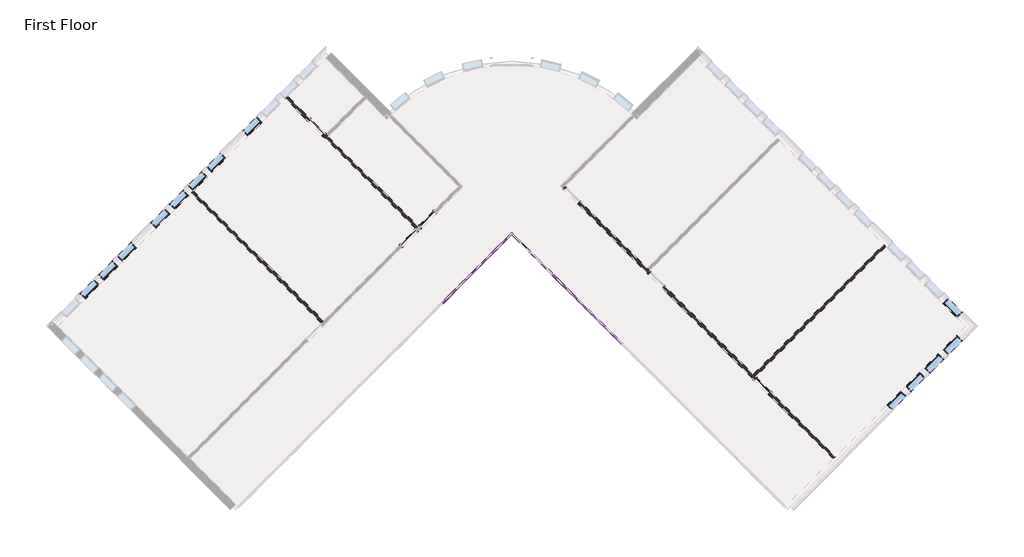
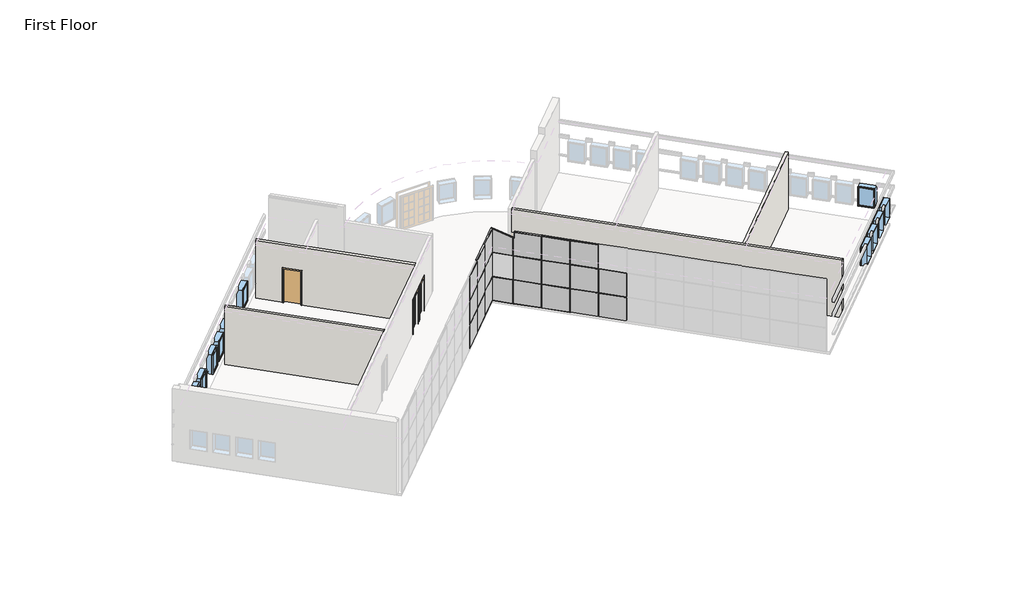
# One storey, part 3 of 5: 47 members, 22 plates, 13 windows, 4 doors, 4 walls.
"""IFC4 building model written with IfcOpenShell, lengths in millimetres."""

from ifc_helpers import new_model, si_unit, origin, origin_with_axes, place, context, project, spatial, polyline, outline, extrude, faceted_brep, transform, mapped, element, save
from components import door_f9494b7c, door_b81abb0e, door_5f5b55da, member_b8a5b5c0, member_155beb68, member_f5090587, member_42be4715, member_6121af53, member_bd80eb51, member_a3731390, member_b87a50da, member_beb33b19, member_b73a8a31, member_6675e4ca, member_76f0c52a, member_4ed907bf, system_panel_glazed_f8555db4, system_panel_glazed_da345f4e, system_panel_glazed_b4114ee2, system_panel_glazed_d4009c89, system_panel_glazed_f1e4c5b0, system_panel_solid_99f695d0, system_panel_solid_2f1037e2, system_panel_solid_f673cd79, system_panel_solid_3576f13f, window_15c49d37, window_0e2fc6ce

model = new_model("IFC4")

# Units and contexts
model_context = context("Model", 3, world=origin())
ifc_project = project(units=[si_unit("LENGTHUNIT", "METRE", prefix="MILLI")], contexts=[model_context])

# Site, building, storey
site = spatial("IfcSite", under=ifc_project)
building = spatial("IfcBuilding", under=site)
storey = spatial("IfcBuildingStorey", under=building, Name="First Floor", Elevation=0.0)

# Doors
placement = place(None, origin())
door_shape = door_f9494b7c(model_context)
element("IfcDoor", 1, ObjectType="Single-Flush : 36\" x 84\"", at=placement, inside=storey, context=model_context, shape_type="MappedRepresentation", body=[
    mapped(door_shape, transform((-11920.1265343, 7875.9588464, 0.0), x_axis=(0.7071067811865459, -0.7071067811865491, 0.0), y_axis=(0.7071067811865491, 0.7071067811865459, 0.0), z_axis=(0.0, 0.0, 1.0))),
])
door_2_shape = door_b81abb0e(model_context)
element("IfcDoor", 2, ObjectType="Single-Glass 1 : 36\" x 84\"", at=placement, inside=storey, context=model_context, shape_type="MappedRepresentation", body=[
    mapped(door_2_shape, transform((-7643.2795567, 2737.0072811, 0.0), x_axis=(0.7071067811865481, 0.7071067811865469, 0.0), y_axis=(-0.7071067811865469, 0.7071067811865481, 0.0), z_axis=(0.0, 0.0, 1.0))),
])
door_3_shape = door_5f5b55da(model_context)
element("IfcDoor", 3, ObjectType="Single-Glass 1 : 36\" x 84\"", at=placement, inside=storey, context=model_context, shape_type="MappedRepresentation", body=[
    mapped(door_3_shape, transform((-6781.1749691, 3599.1118687, 0.0), x_axis=(-0.7071067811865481, -0.7071067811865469, 0.0), y_axis=(0.7071067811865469, -0.7071067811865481, 0.0), z_axis=(0.0, 0.0, 1.0))),
])
element("IfcDoor", 4, ObjectType="Single-Glass 1 : 36\" x 84\"", at=placement, inside=storey, context=model_context, shape_type="MappedRepresentation", body=[
    mapped(door_3_shape, transform((8770.3835686, -4126.1534594, 0.0), x_axis=(-0.7071067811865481, 0.7071067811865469, 0.0), y_axis=(-0.7071067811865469, -0.7071067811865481, 0.0), z_axis=(0.0, 0.0, 1.0))),
])

# Members
member_shape = member_b8a5b5c0(model_context)
element("IfcMember", 5, ObjectType="Rectangular Mullion : 1.5\" x 2.5\" Rectangular", at=placement, inside=storey, context=model_context, shape_type="MappedRepresentation", body=[
    mapped(member_shape, transform((-2894.9691327, 2925.5926597, 0.0), x_axis=(0.0, 0.0, -1.0), y_axis=(-0.7071067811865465, 0.7071067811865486, 0.0), z_axis=(0.7071067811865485, 0.7071067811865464, 0.0))),
])
member_2_shape = member_155beb68(model_context)
element("IfcMember", 6, ObjectType="Rectangular Mullion : 1.5\" x 2.5\" Rectangular", at=placement, inside=storey, context=model_context, shape_type="MappedRepresentation", body=[
    mapped(member_2_shape, transform((-3945.6590988, 1874.9026935, 0.0), x_axis=(-0.7071067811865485, -0.7071067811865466, 0.0), y_axis=(-0.7071067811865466, 0.7071067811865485, 0.0), z_axis=(0.0, 0.0, -1.0))),
])
element("IfcMember", 7, ObjectType="Rectangular Mullion : 1.5\" x 2.5\" Rectangular", at=placement, inside=storey, context=model_context, shape_type="MappedRepresentation", body=[
    mapped(member_2_shape, transform((-5023.2898334, 797.271959, 0.0), x_axis=(-0.7071067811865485, -0.7071067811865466, 0.0), y_axis=(-0.7071067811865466, 0.7071067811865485, 0.0), z_axis=(0.0, 0.0, -1.0))),
])
element("IfcMember", 8, ObjectType="Rectangular Mullion : 1.5\" x 2.5\" Rectangular", at=placement, inside=storey, context=model_context, shape_type="MappedRepresentation", body=[
    mapped(member_2_shape, transform((115.6617319, -31.1566682, 0.0), x_axis=(-0.7071067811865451, 0.70710678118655, 0.0), y_axis=(0.70710678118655, 0.7071067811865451, 0.0), z_axis=(0.0, 0.0, -1.0))),
])
element("IfcMember", 9, ObjectType="Rectangular Mullion : 1.5\" x 2.5\" Rectangular", at=placement, inside=storey, context=model_context, shape_type="MappedRepresentation", body=[
    mapped(member_2_shape, transform((-961.9690026, 1046.4740663, 0.0), x_axis=(-0.7071067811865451, 0.70710678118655, 0.0), y_axis=(0.70710678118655, 0.7071067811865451, 0.0), z_axis=(0.0, 0.0, -1.0))),
])
element("IfcMember", 10, ObjectType="Rectangular Mullion : 1.5\" x 2.5\" Rectangular", at=placement, inside=storey, context=model_context, shape_type="MappedRepresentation", body=[
    mapped(member_2_shape, transform((-2039.5997371, 2124.1048009, 0.0), x_axis=(-0.7071067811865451, 0.70710678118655, 0.0), y_axis=(0.70710678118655, 0.7071067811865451, 0.0), z_axis=(0.0, 0.0, -1.0))),
])
element("IfcMember", 11, ObjectType="Rectangular Mullion : 1.5\" x 2.5\" Rectangular", at=placement, inside=storey, context=model_context, shape_type="MappedRepresentation", body=[
    mapped(member_2_shape, transform((-3945.6590988, 1874.9026935, 3048.0), x_axis=(-0.7071067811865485, -0.7071067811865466, 0.0), y_axis=(-0.7071067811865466, 0.7071067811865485, 0.0), z_axis=(0.0, 0.0, -1.0))),
])
element("IfcMember", 12, ObjectType="Rectangular Mullion : 1.5\" x 2.5\" Rectangular", at=placement, inside=storey, context=model_context, shape_type="MappedRepresentation", body=[
    mapped(member_2_shape, transform((-5023.2898334, 797.271959, 3048.0), x_axis=(-0.7071067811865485, -0.7071067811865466, 0.0), y_axis=(-0.7071067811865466, 0.7071067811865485, 0.0), z_axis=(0.0, 0.0, -1.0))),
])
element("IfcMember", 13, ObjectType="Rectangular Mullion : 1.5\" x 2.5\" Rectangular", at=placement, inside=storey, context=model_context, shape_type="MappedRepresentation", body=[
    mapped(member_2_shape, transform((115.6617319, -31.1566682, 3048.0), x_axis=(-0.7071067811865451, 0.70710678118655, 0.0), y_axis=(0.70710678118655, 0.7071067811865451, 0.0), z_axis=(0.0, 0.0, -1.0))),
])
element("IfcMember", 14, ObjectType="Rectangular Mullion : 1.5\" x 2.5\" Rectangular", at=placement, inside=storey, context=model_context, shape_type="MappedRepresentation", body=[
    mapped(member_2_shape, transform((-961.9690026, 1046.4740663, 3048.0), x_axis=(-0.7071067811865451, 0.70710678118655, 0.0), y_axis=(0.70710678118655, 0.7071067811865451, 0.0), z_axis=(0.0, 0.0, -1.0))),
])
element("IfcMember", 15, ObjectType="Rectangular Mullion : 1.5\" x 2.5\" Rectangular", at=placement, inside=storey, context=model_context, shape_type="MappedRepresentation", body=[
    mapped(member_2_shape, transform((-3945.6590988, 1874.9026935, 1524.0), x_axis=(-0.7071067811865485, -0.7071067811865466, 0.0), y_axis=(-0.7071067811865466, 0.7071067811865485, 0.0), z_axis=(0.0, 0.0, -1.0))),
])
element("IfcMember", 16, ObjectType="Rectangular Mullion : 1.5\" x 2.5\" Rectangular", at=placement, inside=storey, context=model_context, shape_type="MappedRepresentation", body=[
    mapped(member_2_shape, transform((-5023.2898334, 797.271959, 1524.0), x_axis=(-0.7071067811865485, -0.7071067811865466, 0.0), y_axis=(-0.7071067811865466, 0.7071067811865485, 0.0), z_axis=(0.0, 0.0, -1.0))),
])
element("IfcMember", 17, ObjectType="Rectangular Mullion : 1.5\" x 2.5\" Rectangular", at=placement, inside=storey, context=model_context, shape_type="MappedRepresentation", body=[
    mapped(member_2_shape, transform((115.6617319, -31.1566682, 1524.0), x_axis=(-0.7071067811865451, 0.70710678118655, 0.0), y_axis=(0.70710678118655, 0.7071067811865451, 0.0), z_axis=(0.0, 0.0, -1.0))),
])
element("IfcMember", 18, ObjectType="Rectangular Mullion : 1.5\" x 2.5\" Rectangular", at=placement, inside=storey, context=model_context, shape_type="MappedRepresentation", body=[
    mapped(member_2_shape, transform((-961.9690026, 1046.4740663, 1524.0), x_axis=(-0.7071067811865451, 0.70710678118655, 0.0), y_axis=(0.70710678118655, 0.7071067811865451, 0.0), z_axis=(0.0, 0.0, -1.0))),
])
element("IfcMember", 19, ObjectType="Rectangular Mullion : 1.5\" x 2.5\" Rectangular", at=placement, inside=storey, context=model_context, shape_type="MappedRepresentation", body=[
    mapped(member_2_shape, transform((-2039.5997371, 2124.1048009, 1524.0), x_axis=(-0.7071067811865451, 0.70710678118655, 0.0), y_axis=(0.70710678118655, 0.7071067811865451, 0.0), z_axis=(0.0, 0.0, -1.0))),
])
member_3_shape = member_f5090587(model_context)
element("IfcMember", 20, ObjectType="Rectangular Mullion : 1.5\" x 2.5\" Rectangular", at=placement, inside=storey, context=model_context, shape_type="MappedRepresentation", body=[
    mapped(member_3_shape, transform((-3932.1887147, 1888.3730777, 1524.0), x_axis=(0.0, 0.0, 1.0), y_axis=(-0.7071067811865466, 0.7071067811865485, 0.0), z_axis=(-0.7071067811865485, -0.7071067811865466, 0.0))),
])
element("IfcMember", 21, ObjectType="Rectangular Mullion : 1.5\" x 2.5\" Rectangular", at=placement, inside=storey, context=model_context, shape_type="MappedRepresentation", body=[
    mapped(member_3_shape, transform((-3932.1887147, 1888.3730777, 3048.0), x_axis=(0.0, 0.0, 1.0), y_axis=(-0.7071067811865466, 0.7071067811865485, 0.0), z_axis=(-0.7071067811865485, -0.7071067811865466, 0.0))),
])
member_4_shape = member_42be4715(model_context)
element("IfcMember", 22, ObjectType="Rectangular Mullion : 1.5\" x 2.5\" Rectangular", at=placement, inside=storey, context=model_context, shape_type="MappedRepresentation", body=[
    mapped(member_4_shape, transform((-5009.8194492, 810.7423431, 1524.0), x_axis=(0.0, 0.0, 1.0), y_axis=(-0.7071067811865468, 0.7071067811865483, 0.0), z_axis=(-0.7071067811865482, -0.7071067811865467, 0.0))),
])
element("IfcMember", 23, ObjectType="Rectangular Mullion : 1.5\" x 2.5\" Rectangular", at=placement, inside=storey, context=model_context, shape_type="MappedRepresentation", body=[
    mapped(member_4_shape, transform((-5009.8194492, 810.7423431, 3048.0), x_axis=(0.0, 0.0, 1.0), y_axis=(-0.7071067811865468, 0.7071067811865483, 0.0), z_axis=(-0.7071067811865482, -0.7071067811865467, 0.0))),
])
element("IfcMember", 24, ObjectType="Rectangular Mullion : 1.5\" x 2.5\" Rectangular", at=placement, inside=storey, context=model_context, shape_type="MappedRepresentation", body=[
    mapped(member_4_shape, transform((-2026.129353, 2110.6344167, 3048.0), x_axis=(0.0, 0.0, 1.0), y_axis=(0.7071067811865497, 0.7071067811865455, 0.0), z_axis=(-0.7071067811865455, 0.7071067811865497, 0.0))),
])
element("IfcMember", 25, ObjectType="Rectangular Mullion : 1.5\" x 2.5\" Rectangular", at=placement, inside=storey, context=model_context, shape_type="MappedRepresentation", body=[
    mapped(member_4_shape, transform((129.1321161, -44.6270524, 1524.0), x_axis=(0.0, 0.0, 1.0), y_axis=(0.70710678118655, 0.707106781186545, 0.0), z_axis=(-0.707106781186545, 0.70710678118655, 0.0))),
])
element("IfcMember", 26, ObjectType="Rectangular Mullion : 1.5\" x 2.5\" Rectangular", at=placement, inside=storey, context=model_context, shape_type="MappedRepresentation", body=[
    mapped(member_4_shape, transform((-948.4986184, 1033.0036821, 1524.0), x_axis=(0.0, 0.0, 1.0), y_axis=(0.7071067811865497, 0.7071067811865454, 0.0), z_axis=(-0.7071067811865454, 0.7071067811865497, 0.0))),
])
element("IfcMember", 27, ObjectType="Rectangular Mullion : 1.5\" x 2.5\" Rectangular", at=placement, inside=storey, context=model_context, shape_type="MappedRepresentation", body=[
    mapped(member_4_shape, transform((-2026.129353, 2110.6344167, 1524.0), x_axis=(0.0, 0.0, 1.0), y_axis=(0.7071067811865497, 0.7071067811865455, 0.0), z_axis=(-0.7071067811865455, 0.7071067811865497, 0.0))),
])
element("IfcMember", 28, ObjectType="Rectangular Mullion : 1.5\" x 2.5\" Rectangular", at=placement, inside=storey, context=model_context, shape_type="MappedRepresentation", body=[
    mapped(member_4_shape, transform((1206.7628506, -1122.2577869, 3048.0), x_axis=(0.0, 0.0, 1.0), y_axis=(0.70710678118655, 0.707106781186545, 0.0), z_axis=(-0.707106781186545, 0.70710678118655, 0.0))),
])
element("IfcMember", 29, ObjectType="Rectangular Mullion : 1.5\" x 2.5\" Rectangular", at=placement, inside=storey, context=model_context, shape_type="MappedRepresentation", body=[
    mapped(member_4_shape, transform((129.1321161, -44.6270524, 3048.0), x_axis=(0.0, 0.0, 1.0), y_axis=(0.70710678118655, 0.707106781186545, 0.0), z_axis=(-0.7071067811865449, 0.7071067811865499, 0.0))),
])
element("IfcMember", 30, ObjectType="Rectangular Mullion : 1.5\" x 2.5\" Rectangular", at=placement, inside=storey, context=model_context, shape_type="MappedRepresentation", body=[
    mapped(member_4_shape, transform((-948.4986184, 1033.0036821, 3048.0), x_axis=(0.0, 0.0, 1.0), y_axis=(0.7071067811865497, 0.7071067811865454, 0.0), z_axis=(-0.7071067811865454, 0.7071067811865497, 0.0))),
])
member_5_shape = member_6121af53(model_context)
element("IfcMember", 31, ObjectType="Rectangular Mullion : 1.5\" x 2.5\" Rectangular", at=placement, inside=storey, context=model_context, shape_type="MappedRepresentation", body=[
    mapped(member_5_shape, transform((-3959.129483, 1861.4323093, 0.0), x_axis=(0.0, 0.0, -1.0), y_axis=(-0.7071067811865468, 0.7071067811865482, 0.0), z_axis=(0.7071067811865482, 0.7071067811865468, 0.0))),
])
element("IfcMember", 32, ObjectType="Rectangular Mullion : 1.5\" x 2.5\" Rectangular", at=placement, inside=storey, context=model_context, shape_type="MappedRepresentation", body=[
    mapped(member_5_shape, transform((-5036.7602175, 783.8015748, 0.0), x_axis=(0.0, 0.0, -1.0), y_axis=(-0.7071067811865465, 0.7071067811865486, 0.0), z_axis=(0.7071067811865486, 0.7071067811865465, 0.0))),
])
element("IfcMember", 33, ObjectType="Rectangular Mullion : 1.5\" x 2.5\" Rectangular", at=placement, inside=storey, context=model_context, shape_type="MappedRepresentation", body=[
    mapped(member_5_shape, transform((102.1913477, -17.686284, 0.0), x_axis=(0.0, 0.0, -1.0), y_axis=(0.7071067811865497, 0.7071067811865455, 0.0), z_axis=(0.7071067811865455, -0.7071067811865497, 0.0))),
])
element("IfcMember", 34, ObjectType="Rectangular Mullion : 1.5\" x 2.5\" Rectangular", at=placement, inside=storey, context=model_context, shape_type="MappedRepresentation", body=[
    mapped(member_5_shape, transform((-975.4393868, 1059.9444505, 0.0), x_axis=(0.0, 0.0, -1.0), y_axis=(0.7071067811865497, 0.7071067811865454, 0.0), z_axis=(0.7071067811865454, -0.7071067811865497, 0.0))),
])
member_6_shape = member_bd80eb51(model_context)
element("IfcMember", 35, ObjectType="Rectangular Mullion : 1.5\" x 2.5\" Rectangular", at=placement, inside=storey, context=model_context, shape_type="MappedRepresentation", body=[
    mapped(member_6_shape, transform((-2053.0701213, 2137.575185, 0.0), x_axis=(0.0, 0.0, -1.0), y_axis=(0.7071067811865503, 0.7071067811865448, 0.0), z_axis=(0.7071067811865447, -0.7071067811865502, 0.0))),
])
element("IfcMember", 36, ObjectType="Rectangular Mullion : 1.5\" x 2.5\" Rectangular", at=placement, inside=storey, context=model_context, shape_type="MappedRepresentation", body=[
    mapped(member_shape, transform((-3932.1887147, 1888.3730777, 4572.0), x_axis=(0.0, 0.0, 1.0), y_axis=(-0.7071067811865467, 0.7071067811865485, 0.0), z_axis=(-0.7071067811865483, -0.7071067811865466, 0.0))),
])
element("IfcMember", 37, ObjectType="Rectangular Mullion : 1.5\" x 2.5\" Rectangular", at=placement, inside=storey, context=model_context, shape_type="MappedRepresentation", body=[
    mapped(member_5_shape, transform((-5009.8194492, 810.7423431, 4572.0), x_axis=(0.0, 0.0, 1.0), y_axis=(-0.7071067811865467, 0.7071067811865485, 0.0), z_axis=(-0.7071067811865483, -0.7071067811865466, 0.0))),
])
element("IfcMember", 38, ObjectType="Rectangular Mullion : 1.5\" x 2.5\" Rectangular", at=placement, inside=storey, context=model_context, shape_type="MappedRepresentation", body=[
    mapped(member_5_shape, transform((129.1321161, -44.6270524, 4572.0), x_axis=(0.0, 0.0, 1.0), y_axis=(0.70710678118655, 0.707106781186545, 0.0), z_axis=(-0.7071067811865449, 0.7071067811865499, 0.0))),
])
element("IfcMember", 39, ObjectType="Rectangular Mullion : 1.5\" x 2.5\" Rectangular", at=placement, inside=storey, context=model_context, shape_type="MappedRepresentation", body=[
    mapped(member_5_shape, transform((-948.4986184, 1033.0036821, 4572.0), x_axis=(0.0, 0.0, 1.0), y_axis=(0.7071067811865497, 0.7071067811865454, 0.0), z_axis=(-0.7071067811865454, 0.7071067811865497, 0.0))),
])
member_7_shape = member_a3731390(model_context)
element("IfcMember", 40, ObjectType="Rectangular Mullion : 1.5\" x 2.5\" Rectangular", at=placement, inside=storey, context=model_context, shape_type="MappedRepresentation", body=[
    mapped(member_7_shape, transform((-2841.0875959, 2925.5926597, 3048.0), x_axis=(0.0, 0.0, 1.0), y_axis=(0.7071067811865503, 0.7071067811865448, 0.0), z_axis=(-0.7071067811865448, 0.7071067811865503, 0.0))),
])
element("IfcMember", 41, ObjectType="Rectangular Mullion : 1.5\" x 2.5\" Rectangular", at=placement, inside=storey, context=model_context, shape_type="MappedRepresentation", body=[
    mapped(member_7_shape, transform((-2841.0875959, 2925.5926597, 1524.0), x_axis=(0.0, 0.0, 1.0), y_axis=(0.7071067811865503, 0.7071067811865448, 0.0), z_axis=(-0.7071067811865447, 0.7071067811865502, 0.0))),
])
member_8_shape = member_b87a50da(model_context)
element("IfcMember", 42, ObjectType="Rectangular Mullion : 1.5\" x 2.5\" Rectangular", at=placement, inside=storey, context=model_context, shape_type="MappedRepresentation", body=[
    mapped(member_8_shape, transform((-2868.0283643, 2952.533428, 4572.0), x_axis=(0.7071067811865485, 0.7071067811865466, 0.0), y_axis=(-0.7071067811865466, 0.7071067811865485, 0.0), z_axis=(0.0, 0.0, 1.0))),
])
element("IfcMember", 43, ObjectType="Rectangular Mullion : 1.5\" x 2.5\" Rectangular", at=placement, inside=storey, context=model_context, shape_type="MappedRepresentation", body=[
    mapped(member_8_shape, transform((-2868.0283643, 2952.533428, 0.0), x_axis=(-0.7071067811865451, 0.70710678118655, 0.0), y_axis=(0.70710678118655, 0.7071067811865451, 0.0), z_axis=(0.0, 0.0, -1.0))),
])
element("IfcMember", 44, ObjectType="Rectangular Mullion : 1.5\" x 2.5\" Rectangular", at=placement, inside=storey, context=model_context, shape_type="MappedRepresentation", body=[
    mapped(member_8_shape, transform((-2868.0283643, 2952.533428, 1524.0), x_axis=(-0.7071067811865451, 0.70710678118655, 0.0), y_axis=(0.70710678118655, 0.7071067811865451, 0.0), z_axis=(0.0, 0.0, -1.0))),
])
element("IfcMember", 45, ObjectType="Rectangular Mullion : 1.5\" x 2.5\" Rectangular", at=placement, inside=storey, context=model_context, shape_type="MappedRepresentation", body=[
    mapped(member_8_shape, transform((-2868.0283643, 2952.533428, 1524.0), x_axis=(0.7071067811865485, 0.7071067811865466, 0.0), y_axis=(-0.7071067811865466, 0.7071067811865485, 0.0), z_axis=(0.0, 0.0, 1.0))),
])
element("IfcMember", 46, ObjectType="Rectangular Mullion : 1.5\" x 2.5\" Rectangular", at=placement, inside=storey, context=model_context, shape_type="MappedRepresentation", body=[
    mapped(member_8_shape, transform((-2868.0283643, 2952.533428, 3048.0), x_axis=(0.7071067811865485, 0.7071067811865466, 0.0), y_axis=(-0.7071067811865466, 0.7071067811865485, 0.0), z_axis=(0.0, 0.0, 1.0))),
])
member_9_shape = member_beb33b19(model_context)
element("IfcMember", 47, ObjectType="Rectangular Mullion : 1.5\" x 2.5\" Rectangular", at=placement, inside=storey, context=model_context, shape_type="MappedRepresentation", body=[
    mapped(member_9_shape, transform((-2039.5997371, 2124.1048009, 4181.475), x_axis=(0.2236067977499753, -0.22360679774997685, 0.9486832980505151), y_axis=(0.7071067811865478, 0.7071067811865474, 0.0), z_axis=(-0.6708203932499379, 0.6708203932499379, 0.3162277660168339))),
])
member_10_shape = member_b73a8a31(model_context)
element("IfcMember", 48, ObjectType="Rectangular Mullion : 1.5\" x 2.5\" Rectangular", at=placement, inside=storey, context=model_context, shape_type="MappedRepresentation", body=[
    mapped(member_10_shape, transform((-2039.5997371, 2124.1048009, 3048.0), x_axis=(-0.7071067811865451, 0.70710678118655, 0.0), y_axis=(0.70710678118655, 0.7071067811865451, 0.0), z_axis=(0.0, 0.0, -1.0))),
])
member_11_shape = member_6675e4ca(model_context)
element("IfcMember", 49, ObjectType="Rectangular Mullion : 1.5\" x 2.5\" Rectangular", at=placement, inside=storey, context=model_context, shape_type="MappedRepresentation", body=[
    mapped(member_11_shape, transform((-2005.9237767, 2090.4288404, 4165.6), x_axis=(-0.7071067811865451, 0.70710678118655, 0.0), y_axis=(0.70710678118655, 0.7071067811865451, 0.0), z_axis=(0.0, 0.0, -1.0))),
])
member_12_shape = member_76f0c52a(model_context)
element("IfcMember", 50, ObjectType="Rectangular Mullion : 1.5\" x 2.5\" Rectangular", at=placement, inside=storey, context=model_context, shape_type="MappedRepresentation", body=[
    mapped(member_12_shape, transform((-2868.0283643, 2952.533428, 4572.0), x_axis=(0.2236067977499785, -0.22360679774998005, 0.9486832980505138), y_axis=(0.7071067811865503, 0.7071067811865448, 0.0), z_axis=(-0.6708203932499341, 0.6708203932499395, 0.31622776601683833))),
])
member_13_shape = member_4ed907bf(model_context)
element("IfcMember", 51, ObjectType="Rectangular Mullion : 1.5\" x 2.5\" Rectangular", at=placement, inside=storey, context=model_context, shape_type="MappedRepresentation", body=[
    mapped(member_13_shape, transform((-2868.0283643, 2952.533428, 3048.0), x_axis=(-0.7071067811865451, 0.70710678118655, 0.0), y_axis=(0.70710678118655, 0.7071067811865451, 0.0), z_axis=(0.0, 0.0, -1.0))),
])

# Plates
system_panel_glazed_shape = system_panel_glazed_f8555db4(model_context)
element("IfcPlate", 52, ObjectType="System Panel : Glazed", at=placement, inside=storey, context=model_context, shape_type="MappedRepresentation", body=[
    mapped(system_panel_glazed_shape, transform((-3413.5789237, 2406.9828687, 38.1), x_axis=(-0.7071067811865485, -0.7071067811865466, 0.0), y_axis=(0.7071067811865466, -0.7071067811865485, 0.0), z_axis=(0.0, 0.0, 1.0))),
])
system_panel_glazed_2_shape = system_panel_glazed_da345f4e(model_context)
element("IfcPlate", 53, ObjectType="System Panel : Glazed", at=placement, inside=storey, context=model_context, shape_type="MappedRepresentation", body=[
    mapped(system_panel_glazed_2_shape, transform((1732.1078337, -1647.60277, 38.1), x_axis=(-0.7071067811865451, 0.70710678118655, 0.0), y_axis=(-0.70710678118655, -0.7071067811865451, 0.0), z_axis=(0.0, 0.0, 1.0))),
])
element("IfcPlate", 54, ObjectType="System Panel : Glazed", at=placement, inside=storey, context=model_context, shape_type="MappedRepresentation", body=[
    mapped(system_panel_glazed_2_shape, transform((654.4770992, -569.9720355, 38.1), x_axis=(-0.7071067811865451, 0.70710678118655, 0.0), y_axis=(-0.70710678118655, -0.7071067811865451, 0.0), z_axis=(0.0, 0.0, 1.0))),
])
element("IfcPlate", 55, ObjectType="System Panel : Glazed", at=placement, inside=storey, context=model_context, shape_type="MappedRepresentation", body=[
    mapped(system_panel_glazed_2_shape, transform((-423.1536353, 507.6586991, 38.1), x_axis=(-0.7071067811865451, 0.70710678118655, 0.0), y_axis=(-0.70710678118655, -0.7071067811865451, 0.0), z_axis=(0.0, 0.0, 1.0))),
])
element("IfcPlate", 56, ObjectType="System Panel : Glazed", at=placement, inside=storey, context=model_context, shape_type="MappedRepresentation", body=[
    mapped(system_panel_glazed_2_shape, transform((-4484.4744661, 1336.0873262, 38.1), x_axis=(-0.7071067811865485, -0.7071067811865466, 0.0), y_axis=(0.7071067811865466, -0.7071067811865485, 0.0), z_axis=(0.0, 0.0, 1.0))),
])
element("IfcPlate", 57, ObjectType="System Panel : Glazed", at=placement, inside=storey, context=model_context, shape_type="MappedRepresentation", body=[
    mapped(system_panel_glazed_2_shape, transform((-5562.1052006, 258.4565917, 38.1), x_axis=(-0.7071067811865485, -0.7071067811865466, 0.0), y_axis=(0.7071067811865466, -0.7071067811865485, 0.0), z_axis=(0.0, 0.0, 1.0))),
])
element("IfcPlate", 58, ObjectType="System Panel : Glazed", at=placement, inside=storey, context=model_context, shape_type="MappedRepresentation", body=[
    mapped(system_panel_glazed_2_shape, transform((-1500.7843699, 1585.2894336, 38.1), x_axis=(-0.7071067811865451, 0.70710678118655, 0.0), y_axis=(-0.70710678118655, -0.7071067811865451, 0.0), z_axis=(0.0, 0.0, 1.0))),
])
system_panel_glazed_3_shape = system_panel_glazed_b4114ee2(model_context)
element("IfcPlate", 59, ObjectType="System Panel : Glazed", at=placement, inside=storey, context=model_context, shape_type="MappedRepresentation", body=[
    mapped(system_panel_glazed_3_shape, transform((-2447.0788586, 2531.5839223, 38.1), x_axis=(-0.7071067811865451, 0.70710678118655, 0.0), y_axis=(-0.70710678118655, -0.7071067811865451, 0.0), z_axis=(0.0, 0.0, 1.0))),
])
system_panel_glazed_4_shape = system_panel_glazed_d4009c89(model_context)
element("IfcPlate", 60, ObjectType="System Panel : Glazed", at=placement, inside=storey, context=model_context, shape_type="MappedRepresentation", body=[
    mapped(system_panel_glazed_4_shape, transform((-3413.5789237, 2406.9828687, 1543.05), x_axis=(-0.7071067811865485, -0.7071067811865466, 0.0), y_axis=(0.7071067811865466, -0.7071067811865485, 0.0), z_axis=(0.0, 0.0, 1.0))),
])
system_panel_glazed_5_shape = system_panel_glazed_f1e4c5b0(model_context)
element("IfcPlate", 61, ObjectType="System Panel : Glazed", at=placement, inside=storey, context=model_context, shape_type="MappedRepresentation", body=[
    mapped(system_panel_glazed_5_shape, transform((1732.1078337, -1647.60277, 1543.05), x_axis=(-0.7071067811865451, 0.70710678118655, 0.0), y_axis=(-0.70710678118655, -0.7071067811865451, 0.0), z_axis=(0.0, 0.0, 1.0))),
])
element("IfcPlate", 62, ObjectType="System Panel : Glazed", at=placement, inside=storey, context=model_context, shape_type="MappedRepresentation", body=[
    mapped(system_panel_glazed_5_shape, transform((654.4770992, -569.9720355, 1543.05), x_axis=(-0.7071067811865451, 0.70710678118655, 0.0), y_axis=(-0.70710678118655, -0.7071067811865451, 0.0), z_axis=(0.0, 0.0, 1.0))),
])
element("IfcPlate", 63, ObjectType="System Panel : Glazed", at=placement, inside=storey, context=model_context, shape_type="MappedRepresentation", body=[
    mapped(system_panel_glazed_5_shape, transform((-423.1536353, 507.6586991, 1543.05), x_axis=(-0.7071067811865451, 0.70710678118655, 0.0), y_axis=(-0.70710678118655, -0.7071067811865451, 0.0), z_axis=(0.0, 0.0, 1.0))),
])
element("IfcPlate", 64, ObjectType="System Panel : Glazed", at=placement, inside=storey, context=model_context, shape_type="MappedRepresentation", body=[
    mapped(system_panel_glazed_5_shape, transform((-4484.4744661, 1336.0873262, 1543.05), x_axis=(-0.7071067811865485, -0.7071067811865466, 0.0), y_axis=(0.7071067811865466, -0.7071067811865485, 0.0), z_axis=(0.0, 0.0, 1.0))),
])
element("IfcPlate", 65, ObjectType="System Panel : Glazed", at=placement, inside=storey, context=model_context, shape_type="MappedRepresentation", body=[
    mapped(system_panel_glazed_5_shape, transform((-5562.1052006, 258.4565917, 1543.05), x_axis=(-0.7071067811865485, -0.7071067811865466, 0.0), y_axis=(0.7071067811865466, -0.7071067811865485, 0.0), z_axis=(0.0, 0.0, 1.0))),
])
element("IfcPlate", 66, ObjectType="System Panel : Glazed", at=placement, inside=storey, context=model_context, shape_type="MappedRepresentation", body=[
    mapped(system_panel_glazed_5_shape, transform((-1500.7843699, 1585.2894336, 1543.05), x_axis=(-0.7071067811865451, 0.70710678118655, 0.0), y_axis=(-0.70710678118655, -0.7071067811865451, 0.0), z_axis=(0.0, 0.0, 1.0))),
])
system_panel_solid_shape = system_panel_solid_99f695d0(model_context)
element("IfcPlate", 67, ObjectType="System Panel : Solid", at=placement, inside=storey, context=model_context, shape_type="MappedRepresentation", body=[
    mapped(system_panel_solid_shape, transform((-3413.5789237, 2406.9828687, 3067.05), x_axis=(-0.7071067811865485, -0.7071067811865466, 0.0), y_axis=(0.7071067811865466, -0.7071067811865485, 0.0), z_axis=(0.0, 0.0, 1.0))),
])
system_panel_solid_2_shape = system_panel_solid_2f1037e2(model_context)
element("IfcPlate", 68, ObjectType="System Panel : Solid", at=placement, inside=storey, context=model_context, shape_type="MappedRepresentation", body=[
    mapped(system_panel_solid_2_shape, transform((654.4770992, -569.9720355, 3067.05), x_axis=(-0.7071067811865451, 0.70710678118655, 0.0), y_axis=(-0.70710678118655, -0.7071067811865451, 0.0), z_axis=(0.0, 0.0, 1.0))),
])
element("IfcPlate", 69, ObjectType="System Panel : Solid", at=placement, inside=storey, context=model_context, shape_type="MappedRepresentation", body=[
    mapped(system_panel_solid_2_shape, transform((-423.1536353, 507.6586991, 3067.05), x_axis=(-0.7071067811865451, 0.70710678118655, 0.0), y_axis=(-0.70710678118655, -0.7071067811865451, 0.0), z_axis=(0.0, 0.0, 1.0))),
])
element("IfcPlate", 70, ObjectType="System Panel : Solid", at=placement, inside=storey, context=model_context, shape_type="MappedRepresentation", body=[
    mapped(system_panel_solid_2_shape, transform((-4484.4744661, 1336.0873262, 3067.05), x_axis=(-0.7071067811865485, -0.7071067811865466, 0.0), y_axis=(0.7071067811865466, -0.7071067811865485, 0.0), z_axis=(0.0, 0.0, 1.0))),
])
element("IfcPlate", 71, ObjectType="System Panel : Solid", at=placement, inside=storey, context=model_context, shape_type="MappedRepresentation", body=[
    mapped(system_panel_solid_2_shape, transform((-5562.1052006, 258.4565917, 3067.05), x_axis=(-0.7071067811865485, -0.7071067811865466, 0.0), y_axis=(0.7071067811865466, -0.7071067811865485, 0.0), z_axis=(0.0, 0.0, 1.0))),
])
system_panel_solid_3_shape = system_panel_solid_f673cd79(model_context)
element("IfcPlate", 72, ObjectType="System Panel : Solid", at=placement, inside=storey, context=model_context, shape_type="MappedRepresentation", body=[
    mapped(system_panel_solid_3_shape, transform((-1500.7843699, 1585.2894336, 3067.05), x_axis=(-0.7071067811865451, 0.70710678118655, 0.0), y_axis=(-0.70710678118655, -0.7071067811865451, 0.0), z_axis=(0.0, 0.0, 1.0))),
])
system_panel_solid_4_shape = system_panel_solid_3576f13f(model_context)
element("IfcPlate", 73, ObjectType="System Panel : Solid", at=placement, inside=storey, context=model_context, shape_type="MappedRepresentation", body=[
    mapped(system_panel_solid_4_shape, transform((-2447.0788586, 2531.5839223, 3067.05), x_axis=(-0.7071067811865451, 0.70710678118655, 0.0), y_axis=(-0.70710678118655, -0.7071067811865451, 0.0), z_axis=(0.0, 0.0, 1.0))),
])

# Walls
element("IfcWall", 74, ObjectType="Interior - 6 1/8\" Partition (2-hr)", at=placement, inside=storey, context=model_context, shape_type="Brep", body=[
    faceted_brep([(-7322.2354004, 3168.0595749, 0.0), (-11651.8413827, 7497.6655573, 0.0), (-11541.8332452, 7607.6736948, 0.0), (-11489.0742405, 7554.9146901, 0.0), (-11379.066103, 7444.9065526, 0.0), (-7212.2272629, 3278.0677124, 0.0), (-12298.4198234, 8144.243998, 0.0), (-13359.2125777, 9205.0367523, 0.0), (-13249.2044403, 9315.0448898, 0.0), (-12188.411686, 8254.2521355, 0.0), (-7212.2272629, 3278.0677124, 3657.6), (-11379.066103, 7444.9065526, 3657.6), (-11489.0742405, 7554.9146901, 3657.6), (-13249.2044403, 9315.0448898, 3657.6), (-13359.2125777, 9205.0367523, 3657.6), (-7322.2354004, 3168.0595749, 3657.6), (-11541.8332452, 7607.6736948, 2133.6), (-12188.411686, 8254.2521355, 2133.6), (-11651.8413827, 7497.6655573, 2133.6), (-12298.4198234, 8144.243998, 2133.6)], [[[0, 1, 2, 3, 4, 5]], [[6, 7, 8, 9]], [[10, 11, 12, 13, 14, 15]], [[5, 4, 3, 2, 16, 17, 9, 8, 13, 12, 11, 10]], [[18, 1, 0, 15, 14, 7, 6, 19]], [[13, 8, 7, 14]], [[5, 10, 15, 0]], [[16, 2, 1, 18]], [[17, 16, 18, 19]], [[9, 17, 19, 6]]]),
])
element("IfcWall", 75, ObjectType="Interior - 6 1/8\" Partition (2-hr)", at=placement, inside=storey, context=model_context, shape_type="SweptSolid", body=[
    extrude(outline(polyline([(-17633.6967091, 4930.552621), (-11596.7195317, -1106.4245564), (-11706.7276692, -1216.4326939), (-17743.7048466, 4820.5444835), (-17633.6967091, 4930.552621)])), origin_with_axes(), (0.0, 0.0, 1.0), 3657.6),
])
element("IfcWall", 76, ObjectType="Interior - 6 1/8\" Partition (2-hr)", at=placement, inside=storey, context=model_context, shape_type="Brep", body=[
    faceted_brep([(-387.4681754, 5141.7064221, 0.0), (-334.7091707, 5088.9474174, 0.0), (-444.7173082, 4978.9392799, 0.0), (-497.4763129, 5031.6982846, 0.0), (311.86927, 4442.3689766, 0.0), (3415.9058564, 1338.3323903, 0.0), (3525.9139939, 1228.3242528, 0.0), (3578.6729986, 1175.5652481, 0.0), (3468.6648611, 1065.5571106, 0.0), (201.8611325, 4332.3608392, 0.0), (4225.2514393, 528.9868073, 0.0), (8339.3312748, -3585.0930281, 0.0), (8449.3394123, -3695.1011656, 0.0), (8502.098417, -3747.8601703, 0.0), (8392.0902795, -3857.8683078, 0.0), (4115.2433018, 418.9786699, 0.0), (9148.6768577, -4394.438611, 0.0), (12149.2049342, -7394.9666875, 0.0), (12039.1967967, -7504.974825, 0.0), (9038.6687202, -4504.4467485, 0.0), (12149.2049342, -7394.9666875, 3657.6), (8449.3394123, -3695.1011656, 3657.6), (8339.3312748, -3585.0930281, 3657.6), (3525.9139939, 1228.3242528, 3657.6), (3415.9058564, 1338.3323903, 3657.6), (-387.4681754, 5141.7064221, 3657.6), (-497.4763129, 5031.6982846, 3657.6), (12039.1967967, -7504.974825, 3657.6), (8502.098417, -3747.8601703, 2133.6), (4225.2514393, 528.9868073, 2133.6), (3578.6729986, 1175.5652481, 2133.6), (311.86927, 4442.3689766, 2133.6), (-334.7091707, 5088.9474174, 2133.6), (9148.6768577, -4394.438611, 2133.6), (8392.0902795, -3857.8683078, 2133.6), (9038.6687202, -4504.4467485, 2133.6), (-444.7173082, 4978.9392799, 2133.6), (201.8611325, 4332.3608392, 2133.6), (3468.6648611, 1065.5571106, 2133.6), (4115.2433018, 418.9786699, 2133.6)], [[[0, 1, 2, 3]], [[4, 5, 6, 7, 8, 9]], [[10, 11, 12, 13, 14, 15]], [[16, 17, 18, 19]], [[20, 21, 22, 23, 24, 25, 26, 27]], [[28, 13, 12, 11, 10, 29, 30, 7, 6, 5, 4, 31, 32, 1, 0, 25, 24, 23, 22, 21, 20, 17, 16, 33]], [[15, 14, 34, 35, 19, 18, 27, 26, 3, 2, 36, 37, 9, 8, 38, 39]], [[25, 0, 3, 26]], [[17, 20, 27, 18]], [[36, 2, 1, 32]], [[37, 36, 32, 31]], [[9, 37, 31, 4]], [[38, 8, 7, 30]], [[39, 38, 30, 29]], [[15, 39, 29, 10]], [[34, 14, 13, 28]], [[35, 34, 28, 33]], [[19, 35, 33, 16]]]),
])
element("IfcWall", 77, ObjectType="Interior - 6 1/8\" Partition (2-hr)", at=placement, inside=storey, context=model_context, shape_type="SweptSolid", body=[
    extrude(outline(polyline([(8339.3312748, -3585.0930281), (14376.3084522, 2451.8841493), (14486.3165897, 2341.8760118), (8449.3394123, -3695.1011656), (8339.3312748, -3585.0930281)])), origin_with_axes(), (0.0, 0.0, 1.0), 3657.6),
])

# Windows
window_shape = window_15c49d37(model_context)
element("IfcWindow", 78, ObjectType="Fixed : 36\" x 48\"", at=placement, inside=storey, context=model_context, shape_type="MappedRepresentation", body=[
    mapped(window_shape, transform((-22474.1725406, 339.2788968, 0.0), x_axis=(-0.7071067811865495, -0.7071067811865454, 0.0), y_axis=(0.7071067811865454, -0.7071067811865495, 0.0), z_axis=(0.0, 0.0, 1.0))),
])
element("IfcWindow", 79, ObjectType="Fixed : 36\" x 48\"", at=placement, inside=storey, context=model_context, shape_type="MappedRepresentation", body=[
    mapped(window_shape, transform((-21612.067953, 1201.3834844, 0.0), x_axis=(-0.7071067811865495, -0.7071067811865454, 0.0), y_axis=(0.7071067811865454, -0.7071067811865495, 0.0), z_axis=(0.0, 0.0, 1.0))),
])
element("IfcWindow", 80, ObjectType="Fixed : 36\" x 48\"", at=placement, inside=storey, context=model_context, shape_type="MappedRepresentation", body=[
    mapped(window_shape, transform((-20749.9633654, 2063.488072, 0.0), x_axis=(-0.7071067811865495, -0.7071067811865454, 0.0), y_axis=(0.7071067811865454, -0.7071067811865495, 0.0), z_axis=(0.0, 0.0, 1.0))),
])
element("IfcWindow", 81, ObjectType="Fixed : 36\" x 48\"", at=placement, inside=storey, context=model_context, shape_type="MappedRepresentation", body=[
    mapped(window_shape, transform((-19187.8702245, 3625.5812129, 0.0), x_axis=(-0.7071067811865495, -0.7071067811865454, 0.0), y_axis=(0.7071067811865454, -0.7071067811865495, 0.0), z_axis=(0.0, 0.0, 1.0))),
])
element("IfcWindow", 82, ObjectType="Fixed : 36\" x 48\"", at=placement, inside=storey, context=model_context, shape_type="MappedRepresentation", body=[
    mapped(window_shape, transform((-18325.7656368, 4487.6858006, 0.0), x_axis=(-0.7071067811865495, -0.7071067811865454, 0.0), y_axis=(0.7071067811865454, -0.7071067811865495, 0.0), z_axis=(0.0, 0.0, 1.0))),
])
element("IfcWindow", 83, ObjectType="Fixed : 36\" x 48\"", at=placement, inside=storey, context=model_context, shape_type="MappedRepresentation", body=[
    mapped(window_shape, transform((-17463.6610492, 5349.7903882, 0.0), x_axis=(-0.7071067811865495, -0.7071067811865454, 0.0), y_axis=(0.7071067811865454, -0.7071067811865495, 0.0), z_axis=(0.0, 0.0, 1.0))),
])
element("IfcWindow", 84, ObjectType="Fixed : 36\" x 48\"", at=placement, inside=storey, context=model_context, shape_type="MappedRepresentation", body=[
    mapped(window_shape, transform((-16601.5564616, 6211.8949758, 0.0), x_axis=(-0.7071067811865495, -0.7071067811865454, 0.0), y_axis=(0.7071067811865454, -0.7071067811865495, 0.0), z_axis=(0.0, 0.0, 1.0))),
])
element("IfcWindow", 85, ObjectType="Fixed : 36\" x 48\"", at=placement, inside=storey, context=model_context, shape_type="MappedRepresentation", body=[
    mapped(window_shape, transform((17600.2203996, -2193.1533294, 0.0), x_axis=(0.7071067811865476, 0.7071067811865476, 0.0), y_axis=(-0.7071067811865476, 0.7071067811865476, 0.0), z_axis=(0.0, 0.0, 1.0))),
])
element("IfcWindow", 86, ObjectType="Fixed : 36\" x 48\"", at=placement, inside=storey, context=model_context, shape_type="MappedRepresentation", body=[
    mapped(window_shape, transform((16738.115812, -3055.257917, 0.0), x_axis=(0.7071067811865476, 0.7071067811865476, 0.0), y_axis=(-0.7071067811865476, 0.7071067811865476, 0.0), z_axis=(0.0, 0.0, 1.0))),
])
element("IfcWindow", 87, ObjectType="Fixed : 36\" x 48\"", at=placement, inside=storey, context=model_context, shape_type="MappedRepresentation", body=[
    mapped(window_shape, transform((15876.0112244, -3917.3625046, 0.0), x_axis=(0.7071067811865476, 0.7071067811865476, 0.0), y_axis=(-0.7071067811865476, 0.7071067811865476, 0.0), z_axis=(0.0, 0.0, 1.0))),
])
element("IfcWindow", 88, ObjectType="Fixed : 36\" x 48\"", at=placement, inside=storey, context=model_context, shape_type="MappedRepresentation", body=[
    mapped(window_shape, transform((15013.9066368, -4779.4670922, 0.0), x_axis=(0.7071067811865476, 0.7071067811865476, 0.0), y_axis=(-0.7071067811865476, 0.7071067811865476, 0.0), z_axis=(0.0, 0.0, 1.0))),
])
window_2_shape = window_0e2fc6ce(model_context)
element("IfcWindow", 89, ObjectType="Fixed : 36\" x 48\"", at=placement, inside=storey, context=model_context, shape_type="MappedRepresentation", body=[
    mapped(window_2_shape, transform((-14876.6402977, 7936.8111398, 0.0), x_axis=(0.7071067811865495, 0.7071067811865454, 0.0), y_axis=(-0.7071067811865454, 0.7071067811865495, 0.0), z_axis=(0.0, 0.0, 1.0))),
])
element("IfcWindow", 90, ObjectType="Fixed : 36\" x 48\"", at=placement, inside=storey, context=model_context, shape_type="MappedRepresentation", body=[
    mapped(window_2_shape, transform((17600.2203996, -522.8256908, 0.0), x_axis=(0.7071067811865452, -0.7071067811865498, 0.0), y_axis=(0.7071067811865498, 0.7071067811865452, 0.0), z_axis=(0.0, 0.0, 1.0))),
])

save(model, "model.ifc")
